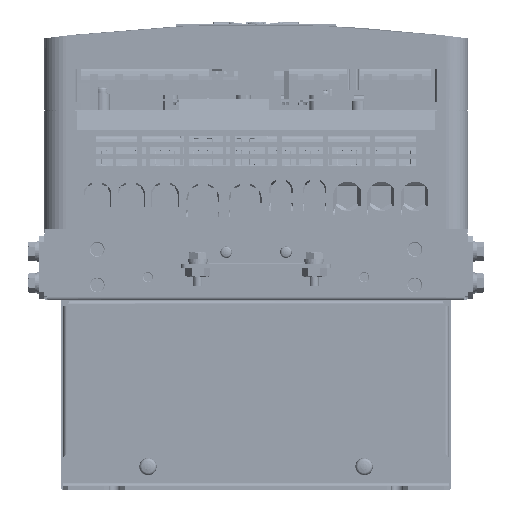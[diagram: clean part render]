
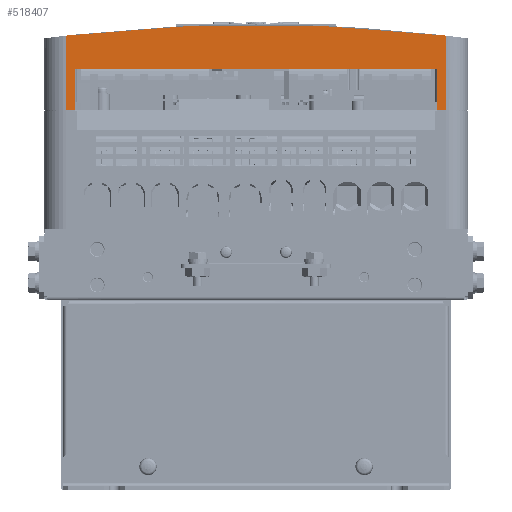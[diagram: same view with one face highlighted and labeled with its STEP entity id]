
A CAD part, front view. The second image highlights one B-rep face of the part: STEP entity #518407.
In plain terms, the highlighted planar face has unit normal (0, -1, 0).
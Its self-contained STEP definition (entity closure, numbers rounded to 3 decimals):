
#503236=DIRECTION('',(1.,0.,0.));
#503237=VECTOR('',#503236,5.4);
#503238=CARTESIAN_POINT('',(236.1,21.,244.5));
#503239=LINE('',#503238,#503237);
#503406=DIRECTION('',(0.,0.,1.));
#503407=VECTOR('',#503406,44.847);
#503408=CARTESIAN_POINT('',(241.5,21.,244.5));
#503409=LINE('',#503408,#503407);
#503414=DIRECTION('',(-1.,0.,0.));
#503415=VECTOR('',#503414,5.4);
#503416=CARTESIAN_POINT('',(18.9,21.,244.5));
#503417=LINE('',#503416,#503415);
#503418=CARTESIAN_POINT('',(127.5,21.,-684.));
#503419=DIRECTION('',(0.,1.,0.));
#503420=DIRECTION('',(-0.116,0.,0.993));
#503421=AXIS2_PLACEMENT_3D('',#503418,#503419,#503420);
#503423=DIRECTION('',(0.,0.,-1.));
#503424=VECTOR('',#503423,24.5);
#503425=CARTESIAN_POINT('',(18.9,21.,269.));
#503426=LINE('',#503425,#503424);
#503431=DIRECTION('',(0.,0.,-1.));
#503432=VECTOR('',#503431,44.847);
#503433=CARTESIAN_POINT('',(13.5,21.,289.347));
#503434=LINE('',#503433,#503432);
#508714=DIRECTION('',(0.,0.,-1.));
#508715=VECTOR('',#508714,24.5);
#508716=CARTESIAN_POINT('',(236.1,21.,269.));
#508717=LINE('',#508716,#508715);
#508718=DIRECTION('',(1.,0.,0.));
#508719=VECTOR('',#508718,217.2);
#508720=CARTESIAN_POINT('',(18.9,21.,269.));
#508721=LINE('',#508720,#508719);
#514314=CARTESIAN_POINT('',(13.5,21.,244.5));
#514315=VERTEX_POINT('',#514314);
#514316=CARTESIAN_POINT('',(18.9,21.,244.5));
#514317=VERTEX_POINT('',#514316);
#514338=CARTESIAN_POINT('',(236.1,21.,244.5));
#514339=VERTEX_POINT('',#514338);
#514340=CARTESIAN_POINT('',(241.5,21.,244.5));
#514341=VERTEX_POINT('',#514340);
#514530=CARTESIAN_POINT('',(241.5,21.,289.347));
#514531=VERTEX_POINT('',#514530);
#514532=CARTESIAN_POINT('',(13.5,21.,289.347));
#514533=VERTEX_POINT('',#514532);
#514534=CARTESIAN_POINT('',(236.1,21.,269.));
#514535=VERTEX_POINT('',#514534);
#514536=CARTESIAN_POINT('',(18.9,21.,269.));
#514537=VERTEX_POINT('',#514536);
#518387=CARTESIAN_POINT('',(0.,21.,296.));
#518388=DIRECTION('',(0.,-1.,0.));
#518389=DIRECTION('',(1.,0.,0.));
#518390=AXIS2_PLACEMENT_3D('',#518387,#518388,#518389);
#518391=PLANE('',#518390);
#518392=ORIENTED_EDGE('',*,*,#518006,.T.);
#518394=ORIENTED_EDGE('',*,*,#518393,.F.);
#518396=ORIENTED_EDGE('',*,*,#518395,.T.);
#518397=ORIENTED_EDGE('',*,*,#518372,.F.);
#518398=ORIENTED_EDGE('',*,*,#518036,.F.);
#518400=ORIENTED_EDGE('',*,*,#518399,.F.);
#518402=ORIENTED_EDGE('',*,*,#518401,.F.);
#518404=ORIENTED_EDGE('',*,*,#518403,.T.);
#518405=EDGE_LOOP('',(#518392,#518394,#518396,#518397,#518398,#518400,#518402,
#518404));
#518406=FACE_OUTER_BOUND('',#518405,.F.);
#503422=CIRCLE('',#503421,980.);
#518006=EDGE_CURVE('',#514317,#514315,#503417,.T.);
#518036=EDGE_CURVE('',#514339,#514341,#503239,.T.);
#518372=EDGE_CURVE('',#514341,#514531,#503409,.T.);
#518393=EDGE_CURVE('',#514533,#514315,#503434,.T.);
#518395=EDGE_CURVE('',#514533,#514531,#503422,.T.);
#518399=EDGE_CURVE('',#514535,#514339,#508717,.T.);
#518401=EDGE_CURVE('',#514537,#514535,#508721,.T.);
#518403=EDGE_CURVE('',#514537,#514317,#503426,.T.);
#518407=ADVANCED_FACE('',(#518406),#518391,.T.);
